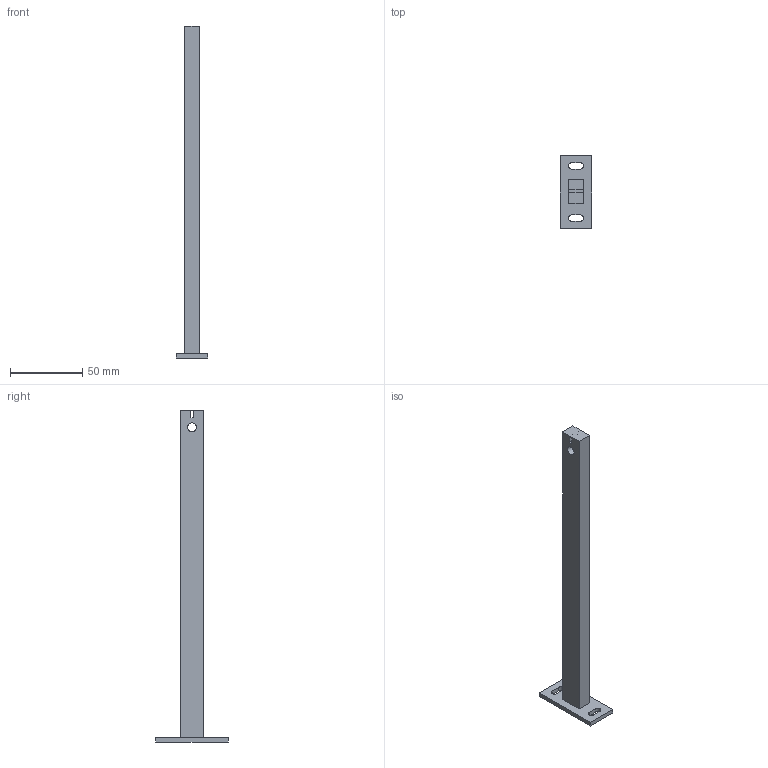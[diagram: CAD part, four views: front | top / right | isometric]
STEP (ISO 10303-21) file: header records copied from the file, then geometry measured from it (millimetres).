
FILE_DESCRIPTION(('Open CASCADE Model'),'2;1');
FILE_NAME('Open CASCADE Shape Model','2026-10-23T08:22:12',('Author'),( 'Open CASCADE'),'Open CASCADE STEP processor 7.9','Open CASCADE 7.9' ,'Unknown');
FILE_SCHEMA(('AUTOMOTIVE_DESIGN { 1 0 10303 214 1 1 1 1 }'));
Length unit declared in the file: millimetre
Products named in the file (1): Open CASCADE STEP translator 7.9 14
Bounding box: 22 x 50 x 229 mm (x, y, z)
Volume: 38776.3 mm3; surface area: 14653.2 mm2
Topology: 1 solids, 1 shells, 25 faces, 66 edges, 44 vertices
Faces by surface type: plane 19, cylinder 6
Full cylindrical faces by diameter (mm): 2.5 x1, 6.2 x1
Entity records: 1908 total; most frequent: CARTESIAN_POINT 535, DIRECTION 254, LINE 173, VECTOR 173, ORIENTED_EDGE 132, PCURVE 132, DEFINITIONAL_REPRESENTATION 132, EDGE_CURVE 66
